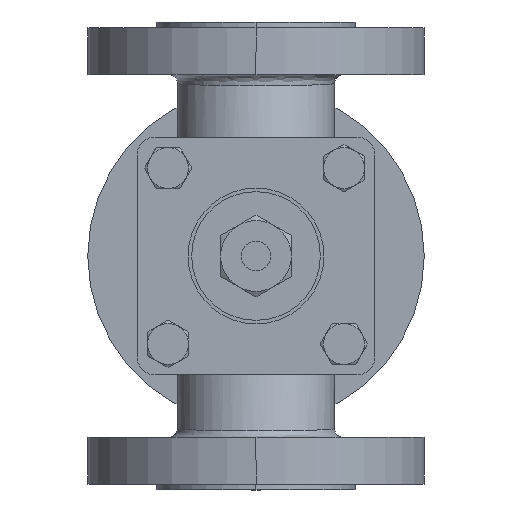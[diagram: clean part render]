
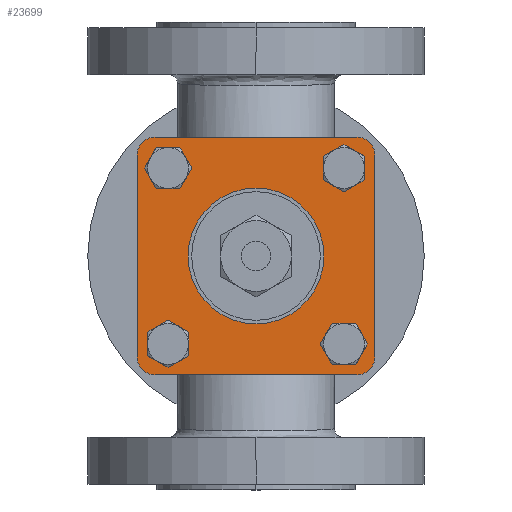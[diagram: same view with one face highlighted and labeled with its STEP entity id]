
A CAD part, front view. The second image highlights one B-rep face of the part: STEP entity #23699.
In plain terms, the highlighted planar face has unit normal (0, -1, 0).
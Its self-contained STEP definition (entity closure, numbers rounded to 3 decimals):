
#23465=CARTESIAN_POINT('',(-38.837,-100.915,41.163));
#23466=VERTEX_POINT('',#23465);
#23475=CARTESIAN_POINT('',(-40.67,-100.915,45.587));
#23476=VERTEX_POINT('',#23475);
#23477=CARTESIAN_POINT('',(-34.413,-100.915,45.587));
#23478=DIRECTION('',(0.,-1.,0.));
#23479=DIRECTION('',(-0.707,0.,-0.707));
#23480=AXIS2_PLACEMENT_3D('',#23477,#23478,#23479);
#23481=CIRCLE('',#23480,6.257);
#23482=EDGE_CURVE('',#23476,#23466,#23481,.T.);
#23509=CARTESIAN_POINT('',(-38.837,-100.915,118.837));
#23510=VERTEX_POINT('',#23509);
#23526=CARTESIAN_POINT('',(-40.67,-100.915,114.413));
#23527=VERTEX_POINT('',#23526);
#23534=CARTESIAN_POINT('',(-34.413,-100.915,114.413));
#23535=DIRECTION('',(0.,-1.,0.));
#23536=DIRECTION('',(-0.707,0.,0.707));
#23537=AXIS2_PLACEMENT_3D('',#23534,#23535,#23536);
#23538=CIRCLE('',#23537,6.257);
#23539=EDGE_CURVE('',#23510,#23527,#23538,.T.);
#23551=CARTESIAN_POINT('',(38.837,-100.915,41.163));
#23552=VERTEX_POINT('',#23551);
#23568=CARTESIAN_POINT('',(40.67,-100.915,45.587));
#23569=VERTEX_POINT('',#23568);
#23576=CARTESIAN_POINT('',(34.413,-100.915,45.587));
#23577=DIRECTION('',(0.,-1.,0.));
#23578=DIRECTION('',(0.707,0.,-0.707));
#23579=AXIS2_PLACEMENT_3D('',#23576,#23577,#23578);
#23580=CIRCLE('',#23579,6.257);
#23581=EDGE_CURVE('',#23552,#23569,#23580,.T.);
#23591=CARTESIAN_POINT('',(38.837,-100.915,118.837));
#23592=VERTEX_POINT('',#23591);
#23601=CARTESIAN_POINT('',(40.67,-100.915,114.413));
#23602=VERTEX_POINT('',#23601);
#23603=CARTESIAN_POINT('',(34.413,-100.915,114.413));
#23604=DIRECTION('',(0.,-1.,0.));
#23605=DIRECTION('',(0.707,0.,0.707));
#23606=AXIS2_PLACEMENT_3D('',#23603,#23604,#23605);
#23607=CIRCLE('',#23606,6.257);
#23608=EDGE_CURVE('',#23602,#23592,#23607,.T.);
#23628=CARTESIAN_POINT('',(0.0,-100.915,80.));
#23629=DIRECTION('',(0.0,1.0,0.0));
#23630=DIRECTION('',(0.0,0.0,-1.0));
#23631=AXIS2_PLACEMENT_3D('',#23628,#23629,#23630);
#23632=PLANE('',#23631);
#23633=CARTESIAN_POINT('',(34.413,-100.915,39.33));
#23634=VERTEX_POINT('',#23633);
#23635=CARTESIAN_POINT('',(34.413,-100.915,45.587));
#23636=DIRECTION('',(0.,-1.,0.));
#23637=DIRECTION('',(0.707,0.,-0.707));
#23638=AXIS2_PLACEMENT_3D('',#23635,#23636,#23637);
#23639=CIRCLE('',#23638,6.257);
#23640=EDGE_CURVE('',#23634,#23552,#23639,.T.);
#23641=ORIENTED_EDGE('',*,*,#23640,.T.);
#23642=ORIENTED_EDGE('',*,*,#23581,.T.);
#23643=CARTESIAN_POINT('',(40.67,-100.915,45.587));
#23644=DIRECTION('',(0.0,0.0,1.0));
#23645=VECTOR('',#23644,68.826);
#23646=LINE('',#23643,#23645);
#23647=EDGE_CURVE('',#23569,#23602,#23646,.T.);
#23648=ORIENTED_EDGE('',*,*,#23647,.T.);
#23649=ORIENTED_EDGE('',*,*,#23608,.T.);
#23650=CARTESIAN_POINT('',(34.413,-100.915,120.67));
#23651=VERTEX_POINT('',#23650);
#23652=CARTESIAN_POINT('',(34.413,-100.915,114.413));
#23653=DIRECTION('',(0.,-1.,0.));
#23654=DIRECTION('',(0.707,0.,0.707));
#23655=AXIS2_PLACEMENT_3D('',#23652,#23653,#23654);
#23656=CIRCLE('',#23655,6.257);
#23657=EDGE_CURVE('',#23592,#23651,#23656,.T.);
#23658=ORIENTED_EDGE('',*,*,#23657,.T.);
#23659=CARTESIAN_POINT('',(-34.413,-100.915,120.67));
#23660=VERTEX_POINT('',#23659);
#23661=CARTESIAN_POINT('',(34.413,-100.915,120.67));
#23662=DIRECTION('',(-1.0,0.0,0.0));
#23663=VECTOR('',#23662,68.826);
#23664=LINE('',#23661,#23663);
#23665=EDGE_CURVE('',#23651,#23660,#23664,.T.);
#23666=ORIENTED_EDGE('',*,*,#23665,.T.);
#23667=CARTESIAN_POINT('',(-34.413,-100.915,114.413));
#23668=DIRECTION('',(0.,-1.,0.));
#23669=DIRECTION('',(-0.707,0.,0.707));
#23670=AXIS2_PLACEMENT_3D('',#23667,#23668,#23669);
#23671=CIRCLE('',#23670,6.257);
#23672=EDGE_CURVE('',#23660,#23510,#23671,.T.);
#23673=ORIENTED_EDGE('',*,*,#23672,.T.);
#23674=ORIENTED_EDGE('',*,*,#23539,.T.);
#23675=CARTESIAN_POINT('',(-40.67,-100.915,114.413));
#23676=DIRECTION('',(0.0,0.0,-1.0));
#23677=VECTOR('',#23676,68.826);
#23678=LINE('',#23675,#23677);
#23679=EDGE_CURVE('',#23527,#23476,#23678,.T.);
#23680=ORIENTED_EDGE('',*,*,#23679,.T.);
#23681=ORIENTED_EDGE('',*,*,#23482,.T.);
#23682=CARTESIAN_POINT('',(-34.413,-100.915,39.33));
#23683=VERTEX_POINT('',#23682);
#23684=CARTESIAN_POINT('',(-34.413,-100.915,45.587));
#23685=DIRECTION('',(0.,-1.,0.));
#23686=DIRECTION('',(-0.707,0.,-0.707));
#23687=AXIS2_PLACEMENT_3D('',#23684,#23685,#23686);
#23688=CIRCLE('',#23687,6.257);
#23689=EDGE_CURVE('',#23466,#23683,#23688,.T.);
#23690=ORIENTED_EDGE('',*,*,#23689,.T.);
#23691=CARTESIAN_POINT('',(-34.413,-100.915,39.33));
#23692=DIRECTION('',(1.0,0.0,0.0));
#23693=VECTOR('',#23692,68.826);
#23694=LINE('',#23691,#23693);
#23695=EDGE_CURVE('',#23683,#23634,#23694,.T.);
#23696=ORIENTED_EDGE('',*,*,#23695,.T.);
#23697=EDGE_LOOP('',(#23641,#23642,#23648,#23649,#23658,#23666,#23673,#23674,#23680,#23681,#23690,#23696));
#23698=FACE_OUTER_BOUND('',#23697,.T.);
#23699=ADVANCED_FACE('',(#23698),#23632,.F.);
